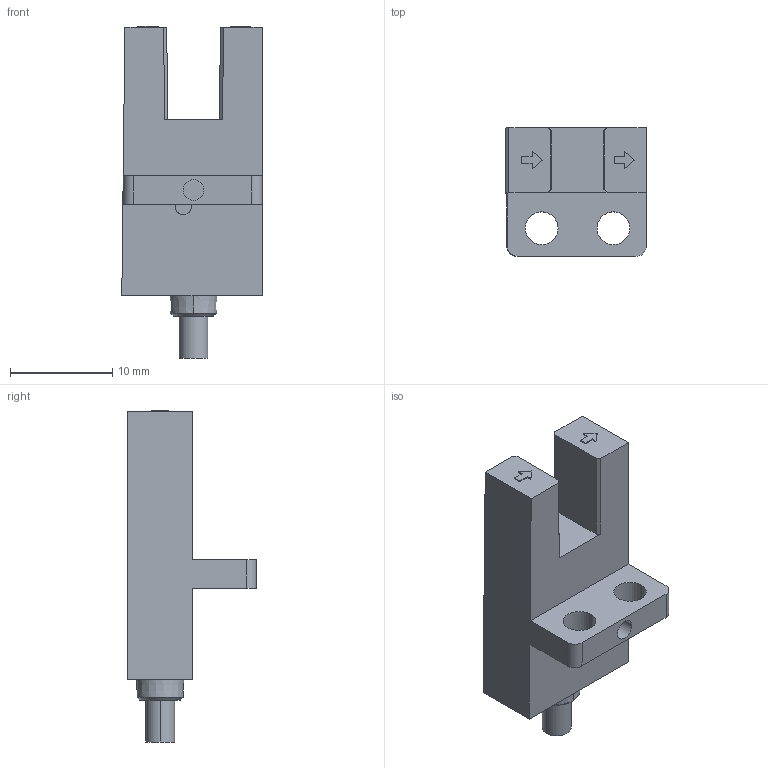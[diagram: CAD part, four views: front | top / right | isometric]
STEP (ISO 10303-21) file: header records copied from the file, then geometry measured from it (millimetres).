
FILE_DESCRIPTION((''),'2;1');
FILE_NAME('673_ASM_ASM','2018-07-16T14:06:19',('Administrator'),(''),'CREO PARAMETRIC BY PTC INC, 2016390','CREO PARAMETRIC BY PTC INC, 2016390','');
FILE_SCHEMA(('CONFIG_CONTROL_DESIGN'));
Length unit declared in the file: millimetre
Products named in the file (4): 673_54; A2_71_9; 67300_ASM_4_ASM; 673_ASM_ASM
Assembly tree (3 placements, depth 3):
  673_ASM_ASM
    67300_ASM_4_ASM
      673_54
      A2_71_9
Bounding box: 13.7 x 12.55 x 32.4 mm (x, y, z)
Volume: 1073.1 mm3; surface area: 2628.8 mm2
Topology: 3 solids, 3 shells, 97 faces, 260 edges, 174 vertices
Faces by surface type: plane 80, cylinder 13, cone 4
Entity records: 3144 total; most frequent: CARTESIAN_POINT 550, ORIENTED_EDGE 520, DIRECTION 510, EDGE_CURVE 260, VECTOR 218, LINE 218, VERTEX_POINT 174, AXIS2_PLACEMENT_3D 146
